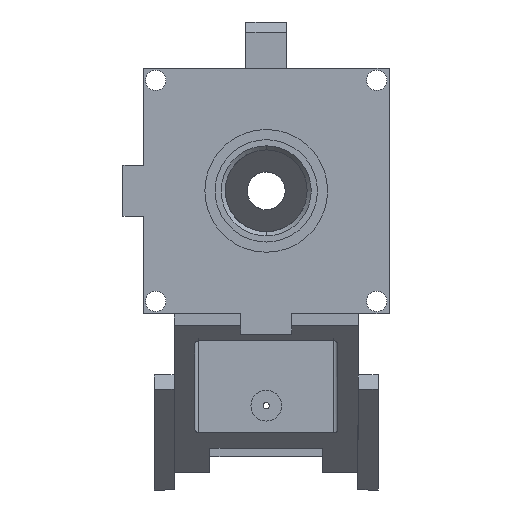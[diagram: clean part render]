
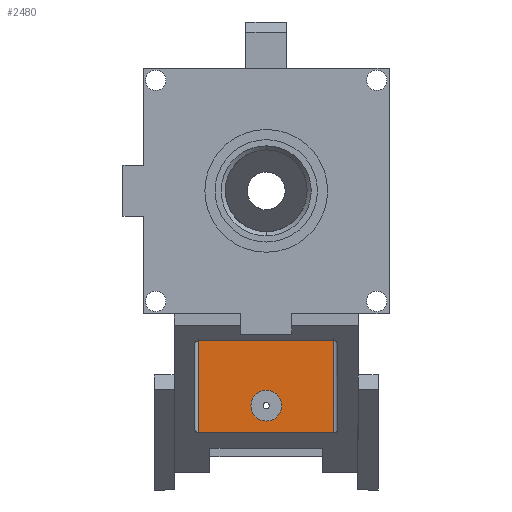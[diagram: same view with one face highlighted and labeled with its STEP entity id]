
A CAD part, front view. The second image highlights one B-rep face of the part: STEP entity #2480.
In plain terms, the highlighted planar face has unit normal (0, -1, 0).
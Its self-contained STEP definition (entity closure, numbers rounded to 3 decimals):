
#32 = EDGE_CURVE ( 'NONE', #1109, #4358, #6611, .T. ) ;
#111 = LINE ( 'NONE', #8750, #10707 ) ;
#123 = EDGE_CURVE ( 'NONE', #11447, #4358, #10260, .T. ) ;
#126 = EDGE_CURVE ( 'NONE', #8858, #1475, #10730, .T. ) ;
#337 = EDGE_CURVE ( 'NONE', #4264, #3331, #111, .T. ) ;
#491 = AXIS2_PLACEMENT_3D ( 'NONE', #5114, #7847, #4357 ) ;
#527 = ORIENTED_EDGE ( 'NONE', *, *, #337, .T. ) ;
#628 = VECTOR ( 'NONE', #11272, 1000. ) ;
#735 = LINE ( 'NONE', #4370, #628 ) ;
#937 = ORIENTED_EDGE ( 'NONE', *, *, #4641, .F. ) ;
#1109 = VERTEX_POINT ( 'NONE', #5175 ) ;
#1165 = CARTESIAN_POINT ( 'NONE',  ( -3.3, 2.25, 4.5 ) ) ;
#1283 = CARTESIAN_POINT ( 'NONE',  ( 3.3, 2.25, 4.5 ) ) ;
#1475 = VERTEX_POINT ( 'NONE', #6026 ) ;
#1651 = FACE_BOUND ( 'NONE', #10328, .T. ) ;
#2322 = CARTESIAN_POINT ( 'NONE',  ( 0., 2.25, 4.5 ) ) ;
#2480 = ADVANCED_FACE ( 'NONE', ( #1651, #5178 ), #8712, .F. ) ;
#2525 = ORIENTED_EDGE ( 'NONE', *, *, #32, .T. ) ;
#2654 = DIRECTION ( 'NONE',  ( 0., 0., -1. ) ) ;
#3146 = VECTOR ( 'NONE', #4983, 1000. ) ;
#3180 = AXIS2_PLACEMENT_3D ( 'NONE', #5203, #8743, #7877 ) ;
#3331 = VERTEX_POINT ( 'NONE', #8627 ) ;
#3998 = DIRECTION ( 'NONE',  ( 0., -1., 0. ) ) ;
#4264 = VERTEX_POINT ( 'NONE', #1165 ) ;
#4357 = DIRECTION ( 'NONE',  ( 0., 0., 1. ) ) ;
#4358 = VERTEX_POINT ( 'NONE', #1283 ) ;
#4370 = CARTESIAN_POINT ( 'NONE',  ( -50., 2.25, -1.328 ) ) ;
#4634 = ORIENTED_EDGE ( 'NONE', *, *, #126, .F. ) ;
#4635 = DIRECTION ( 'NONE',  ( 0., 0., 1. ) ) ;
#4641 = EDGE_CURVE ( 'NONE', #1475, #8858, #11324, .T. ) ;
#4983 = DIRECTION ( 'NONE',  ( 1., 0., 0. ) ) ;
#5114 = CARTESIAN_POINT ( 'NONE',  ( -3.5, 2.25, -4.5 ) ) ;
#5175 = CARTESIAN_POINT ( 'NONE',  ( 3.3, 2.25, -1.328 ) ) ;
#5178 = FACE_OUTER_BOUND ( 'NONE', #6708, .T. ) ;
#5186 = AXIS2_PLACEMENT_3D ( 'NONE', #6896, #3998, #9449 ) ;
#5203 = CARTESIAN_POINT ( 'NONE',  ( 0., 2.25, 0. ) ) ;
#6026 = CARTESIAN_POINT ( 'NONE',  ( 0., 2.25, 0.75 ) ) ;
#6152 = EDGE_CURVE ( 'NONE', #1109, #3331, #735, .T. ) ;
#6331 = ORIENTED_EDGE ( 'NONE', *, *, #9749, .F. ) ;
#6418 = LINE ( 'NONE', #7230, #7107 ) ;
#6611 = LINE ( 'NONE', #9276, #10180 ) ;
#6630 = ORIENTED_EDGE ( 'NONE', *, *, #6152, .F. ) ;
#6708 = EDGE_LOOP ( 'NONE', ( #6331, #527, #6630, #2525, #9279 ) ) ;
#6896 = CARTESIAN_POINT ( 'NONE',  ( 0., 2.25, 0. ) ) ;
#7107 = VECTOR ( 'NONE', #8966, 1000. ) ;
#7230 = CARTESIAN_POINT ( 'NONE',  ( -3.5, 2.25, 4.5 ) ) ;
#7847 = DIRECTION ( 'NONE',  ( 0., 1., 0. ) ) ;
#7877 = DIRECTION ( 'NONE',  ( 0., 0., 1. ) ) ;
#8627 = CARTESIAN_POINT ( 'NONE',  ( -3.3, 2.25, -1.328 ) ) ;
#8712 = PLANE ( 'NONE',  #491 ) ;
#8743 = DIRECTION ( 'NONE',  ( 0., -1., 0. ) ) ;
#8750 = CARTESIAN_POINT ( 'NONE',  ( -3.3, 2.25, -4.5 ) ) ;
#8858 = VERTEX_POINT ( 'NONE', #10618 ) ;
#8966 = DIRECTION ( 'NONE',  ( 1., 0., 0. ) ) ;
#9276 = CARTESIAN_POINT ( 'NONE',  ( 3.3, 2.25, 4.5 ) ) ;
#9279 = ORIENTED_EDGE ( 'NONE', *, *, #123, .F. ) ;
#9449 = DIRECTION ( 'NONE',  ( 0., 0., 1. ) ) ;
#9749 = EDGE_CURVE ( 'NONE', #4264, #11447, #6418, .T. ) ;
#10180 = VECTOR ( 'NONE', #4635, 1000. ) ;
#10260 = LINE ( 'NONE', #11293, #3146 ) ;
#10328 = EDGE_LOOP ( 'NONE', ( #937, #4634 ) ) ;
#10618 = CARTESIAN_POINT ( 'NONE',  ( 0., 2.25, -0.75 ) ) ;
#10707 = VECTOR ( 'NONE', #2654, 1000. ) ;
#10730 = CIRCLE ( 'NONE', #5186, 0.75 ) ;
#11272 = DIRECTION ( 'NONE',  ( -1., 0., 0. ) ) ;
#11293 = CARTESIAN_POINT ( 'NONE',  ( -3.5, 2.25, 4.5 ) ) ;
#11324 = CIRCLE ( 'NONE', #3180, 0.75 ) ;
#11447 = VERTEX_POINT ( 'NONE', #2322 ) ;
